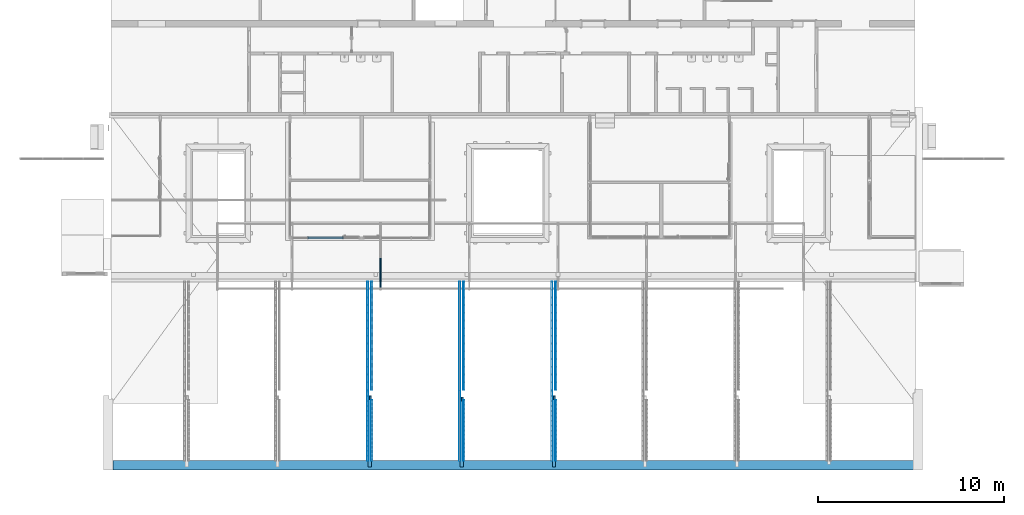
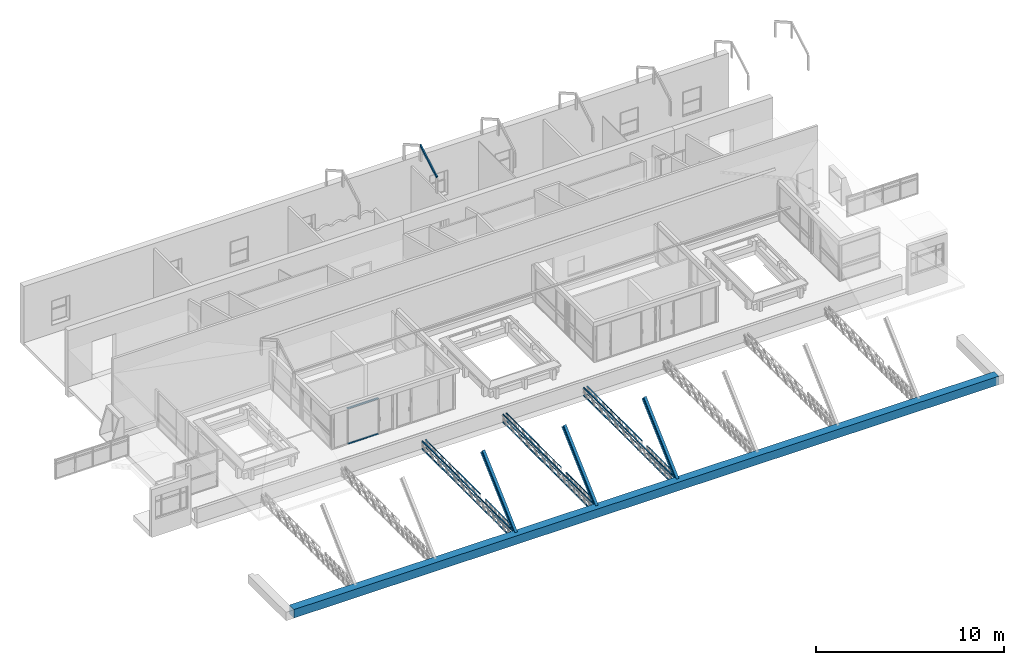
# One storey, part 4 of 153: 29 beams, 2 members, 14 elements without a shape of their own.
"""IFC4 building model written with IfcOpenShell, lengths in metres."""

from ifc_helpers import new_model, entity, si_unit, converted_unit, derived_unit, direction, frame, origin, place, context, subcontext, project, spatial, line, arc, indexed_curve, outline, extrude, source, transform, mapped, material, type_object, type_shapes, element, aggregate, save


model = new_model("IFC4")

# Units and contexts
model_context = context("Model", 3, precision=1e-05, world=origin(), true_north=direction((6.123031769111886e-17, 1.0)))
body_context = subcontext(model_context, "Body", "Model", "MODEL_VIEW")
ifc_project = project(units=[si_unit("LENGTHUNIT", "METRE"), si_unit("AREAUNIT", "SQUARE_METRE"), si_unit("VOLUMEUNIT", "CUBIC_METRE"), converted_unit("PLANEANGLEUNIT", "DEGREE", entity("IfcRatioMeasure", 0.017453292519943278), si_unit("PLANEANGLEUNIT", "RADIAN"), dimensions=[0, 0, 0, 0, 0, 0, 0]), si_unit("MASSUNIT", "GRAM", prefix="KILO"), derived_unit("MASSDENSITYUNIT", [(si_unit("MASSUNIT", "GRAM", prefix="KILO"), 1), (si_unit("LENGTHUNIT", "METRE"), -3)]), derived_unit("MOMENTOFINERTIAUNIT", [(si_unit("LENGTHUNIT", "METRE"), 4)]), si_unit("TIMEUNIT", "SECOND"), si_unit("FREQUENCYUNIT", "HERTZ"), si_unit("THERMODYNAMICTEMPERATUREUNIT", "DEGREE_CELSIUS"), derived_unit("THERMALTRANSMITTANCEUNIT", [(si_unit("MASSUNIT", "GRAM", prefix="KILO"), 1), (si_unit("THERMODYNAMICTEMPERATUREUNIT", "KELVIN"), -1), (si_unit("TIMEUNIT", "SECOND"), -3)]), derived_unit("VOLUMETRICFLOWRATEUNIT", [(si_unit("LENGTHUNIT", "METRE"), 3), (si_unit("TIMEUNIT", "SECOND"), -1)]), derived_unit("MASSFLOWRATEUNIT", [(si_unit("MASSUNIT", "GRAM", prefix="KILO"), 1), (si_unit("TIMEUNIT", "SECOND"), -1)]), derived_unit("ROTATIONALFREQUENCYUNIT", [(si_unit("TIMEUNIT", "SECOND"), -1)]), si_unit("ELECTRICCURRENTUNIT", "AMPERE"), si_unit("ELECTRICVOLTAGEUNIT", "VOLT"), si_unit("POWERUNIT", "WATT"), si_unit("FORCEUNIT", "NEWTON", prefix="KILO"), si_unit("ILLUMINANCEUNIT", "LUX"), si_unit("LUMINOUSFLUXUNIT", "LUMEN"), si_unit("LUMINOUSINTENSITYUNIT", "CANDELA"), derived_unit("USERDEFINED", [(si_unit("MASSUNIT", "GRAM", prefix="KILO"), -1), (si_unit("LENGTHUNIT", "METRE"), -2), (si_unit("TIMEUNIT", "SECOND"), 3), (si_unit("LUMINOUSFLUXUNIT", "LUMEN"), 1)]), derived_unit("SOUNDPOWERUNIT", [(si_unit("MASSUNIT", "GRAM", prefix="KILO"), 1), (si_unit("LENGTHUNIT", "METRE"), 2), (si_unit("TIMEUNIT", "SECOND"), -3)]), derived_unit("SOUNDPRESSUREUNIT", [(si_unit("MASSUNIT", "GRAM", prefix="KILO"), 1), (si_unit("LENGTHUNIT", "METRE"), -1), (si_unit("TIMEUNIT", "SECOND"), -2)]), derived_unit("LINEARVELOCITYUNIT", [(si_unit("LENGTHUNIT", "METRE"), 1), (si_unit("TIMEUNIT", "SECOND"), -1)]), si_unit("PRESSUREUNIT", "PASCAL"), derived_unit("USERDEFINED", [(si_unit("LENGTHUNIT", "METRE"), -2), (si_unit("MASSUNIT", "GRAM", prefix="KILO"), 1), (si_unit("TIMEUNIT", "SECOND"), -2)]), derived_unit("LINEARFORCEUNIT", [(si_unit("MASSUNIT", "GRAM", prefix="KILO"), 1), (si_unit("LENGTHUNIT", "METRE"), 1), (si_unit("TIMEUNIT", "SECOND"), -2), (si_unit("LENGTHUNIT", "METRE"), -1)]), derived_unit("PLANARFORCEUNIT", [(si_unit("MASSUNIT", "GRAM", prefix="KILO"), 1), (si_unit("LENGTHUNIT", "METRE"), 1), (si_unit("TIMEUNIT", "SECOND"), -2), (si_unit("LENGTHUNIT", "METRE"), -2)])], contexts=[model_context])

# Site, building, storey
site_placement = place(None, origin())
site = spatial("IfcSite", under=ifc_project, at=site_placement, Name="Superficie", CompositionType="ELEMENT")
building_placement = place(site_placement, origin())
building = spatial("IfcBuilding", under=site, at=building_placement, CompositionType="ELEMENT")
storey_placement = place(building_placement, frame((0.0, 0.0, 3.5999999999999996)))
storey = spatial("IfcBuildingStorey", under=building, at=storey_placement, Name="Nivel 1", CompositionType="ELEMENT", Elevation=3.5999999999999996)

# Curtain wall, members
curtain_wall_type = type_object("IfcCurtainWallType", Name="Muro cortina:Muro cortina - simple", PredefinedType="NOTDEFINED")
curtain_wall_placement = place(storey_placement, frame((0.0, 0.0, -3.5999999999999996)))
curtain_wall = element("IfcCurtainWall", 1, at=curtain_wall_placement, inside=storey, type_object=curtain_wall_type, Name="Muro cortina:Muro cortina - simple", ObjectType="Muro cortina:Muro cortina - simple", PredefinedType="NOTDEFINED")
ifc_material_1 = material(Name="<Unnamed>")
member_type_1 = type_object("IfcMemberType", Name="Montante rectangular:Montante rectangular - 5 x 10 cm", PredefinedType="MULLION", material=ifc_material_1)
shared_shape_1 = source(origin(), body_context, "Body", "SweptSolid", [
    extrude(outline(indexed_curve([(-0.05, -0.025), (0.05, -0.025), (0.05, 0.025), (-0.05, 0.025), (-0.05, -0.025)], self_intersect=False)), frame((-0.025, 0.0, -1.8899999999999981), z_axis=(0.0, 0.0, 1.0), x_axis=(0.0, -1.0, 0.0)), (0.0, 0.0, 1.0), 1.8899999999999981),
])
type_shapes(member_type_1, [shared_shape_1])
member_1_placement = place(curtain_wall_placement, frame((-10.173200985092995, -0.9636067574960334, 5.949999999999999), z_axis=(1.0, 0.0, 0.0), x_axis=(0.0, 0.0, 1.0)))
member_1 = element("IfcMember", 2, at=member_1_placement, type_object=member_type_1, material=ifc_material_1, Name="Montante rectangular:Montante rectangular - 5 x 10 cm", ObjectType="Montante rectangular:Montante rectangular - 5 x 10 cm", PredefinedType="MULLION", context=body_context, shape_type="MappedRepresentation", body=[
    mapped(shared_shape_1, transform((0.0, 0.0, 0.0), scale=1.0)),
])
member_type_2 = type_object("IfcMemberType", Name="Montante rectangular:Montante rectangular - 5 x 10 cm", PredefinedType="MULLION", material=ifc_material_1)
shared_shape_2 = source(origin(), body_context, "Body", "SweptSolid", [
    extrude(outline(indexed_curve([(-0.05, -0.025), (0.05, -0.025), (0.05, 0.025), (-0.05, 0.025), (-0.05, -0.025)], self_intersect=False)), frame((-0.025, 0.0, -1.839999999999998), z_axis=(0.0, 0.0, 1.0), x_axis=(0.0, -1.0, 0.0)), (0.0, 0.0, 1.0), 1.839999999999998),
])
type_shapes(member_type_2, [shared_shape_2])
member_2_placement = place(curtain_wall_placement, frame((-12.038200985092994, -0.9636067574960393, 3.5999999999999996), z_axis=(-1.0, 0.0, 0.0), x_axis=(0.0, 0.0, -1.0)))
member_2 = element("IfcMember", 3, at=member_2_placement, type_object=member_type_2, material=ifc_material_1, Name="Montante rectangular:Montante rectangular - 5 x 10 cm", ObjectType="Montante rectangular:Montante rectangular - 5 x 10 cm", PredefinedType="MULLION", context=body_context, shape_type="MappedRepresentation", body=[
    mapped(shared_shape_2, transform((0.0, 0.0, 0.0), scale=1.0)),
])
aggregate(curtain_wall, [member_1, member_2])

# Assembly, beams
assembly_1_placement = place(storey_placement, origin())
assembly_1 = element("IfcElementAssembly", 4, at=assembly_1_placement, inside=storey, Name="Viga de celosia 13:Viga de celosia 13", ObjectType="Viga de celosia 13:Viga de celosia 13", AssemblyPlace="NOTDEFINED", PredefinedType="TRUSS")
ifc_material_2 = material(Name="Metal - Calibre delgado", Category="Metal")
beam_type_1 = type_object("IfcBeamType", Name="Calibre delgado-Ángulos:L140 x 40", PredefinedType="BEAM", material=ifc_material_2)
shared_shape_3 = source(origin(), body_context, "Body", "SweptSolid", [
    extrude(outline(indexed_curve([(-0.01766666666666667, -0.032333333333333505), (-0.014666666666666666, -0.032333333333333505), (-0.014666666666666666, 0.014666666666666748), (0.03233333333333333, 0.014666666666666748), (0.03233333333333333, 0.017666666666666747), (-0.01766666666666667, 0.017666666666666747), (-0.01766666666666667, -0.032333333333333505)], self_intersect=False)), frame((-2.899999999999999, -0.017666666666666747, -0.01766666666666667), z_axis=(1.0, 0.0, 0.0), x_axis=(0.0, 0.0, -1.0)), (0.0, 0.0, 1.0), 5.799999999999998),
])
type_shapes(beam_type_1, [shared_shape_3])
beam_1_placement = place(assembly_1_placement, frame((-8.863200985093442, -6.234029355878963, 0.02499999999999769), z_axis=(0.0, 0.0, 1.0), x_axis=(0.0, 1.0, 0.0)))
beam_1 = element("IfcBeam", 5, at=beam_1_placement, type_object=beam_type_1, material=ifc_material_2, Name="Calibre delgado-Ángulos:L140 x 40", ObjectType="Calibre delgado-Ángulos:L140 x 40", PredefinedType="BEAM", context=body_context, shape_type="MappedRepresentation", body=[
    mapped(shared_shape_3, transform((0.0, 0.0, 0.0), scale=1.0)),
])
beam_2_placement = place(assembly_1_placement, frame((-8.863200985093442, -6.234029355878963, 0.5249999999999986), z_axis=(0.0, 0.0, 1.0), x_axis=(0.0, 1.0, 0.0)))
beam_2 = element("IfcBeam", 6, at=beam_2_placement, type_object=beam_type_1, material=ifc_material_2, Name="Calibre delgado-Ángulos:L140 x 40", ObjectType="Calibre delgado-Ángulos:L140 x 40", PredefinedType="BEAM", context=body_context, shape_type="MappedRepresentation", body=[
    mapped(shared_shape_3, transform((0.0, 0.0, 0.0), scale=1.0)),
])
aggregate(assembly_1, [beam_1, beam_2])

assembly_2_placement = place(storey_placement, origin())
assembly_2 = element("IfcElementAssembly", 7, at=assembly_2_placement, inside=storey, Name="Viga de celosia 13:Viga de celosia 13", ObjectType="Viga de celosia 13:Viga de celosia 13", AssemblyPlace="NOTDEFINED", PredefinedType="TRUSS")
beam_3_placement = place(assembly_2_placement, frame((-3.9132009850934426, -6.234029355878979, 0.02499999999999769), z_axis=(0.0, 0.0, 1.0), x_axis=(0.0, 1.0, 0.0)))
beam_3 = element("IfcBeam", 8, at=beam_3_placement, type_object=beam_type_1, material=ifc_material_2, Name="Calibre delgado-Ángulos:L140 x 40", ObjectType="Calibre delgado-Ángulos:L140 x 40", PredefinedType="BEAM", context=body_context, shape_type="MappedRepresentation", body=[
    mapped(shared_shape_3, transform((0.0, 0.0, 0.0), scale=1.0)),
])
beam_4_placement = place(assembly_2_placement, frame((-3.9132009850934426, -6.234029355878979, 0.5249999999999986), z_axis=(0.0, 0.0, 1.0), x_axis=(0.0, 1.0, 0.0)))
beam_4 = element("IfcBeam", 9, at=beam_4_placement, type_object=beam_type_1, material=ifc_material_2, Name="Calibre delgado-Ángulos:L140 x 40", ObjectType="Calibre delgado-Ángulos:L140 x 40", PredefinedType="BEAM", context=body_context, shape_type="MappedRepresentation", body=[
    mapped(shared_shape_3, transform((0.0, 0.0, 0.0), scale=1.0)),
])
aggregate(assembly_2, [beam_3, beam_4])

assembly_3_placement = place(storey_placement, origin())
assembly_3 = element("IfcElementAssembly", 10, at=assembly_3_placement, inside=storey, Name="Viga de celosia 13:Viga de celosia 13", ObjectType="Viga de celosia 13:Viga de celosia 13", AssemblyPlace="NOTDEFINED", PredefinedType="TRUSS")
beam_5_placement = place(assembly_3_placement, frame((1.0367990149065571, -6.234029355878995, 0.02499999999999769), z_axis=(0.0, 0.0, 1.0), x_axis=(0.0, 1.0, 0.0)))
beam_5 = element("IfcBeam", 11, at=beam_5_placement, type_object=beam_type_1, material=ifc_material_2, Name="Calibre delgado-Ángulos:L140 x 40", ObjectType="Calibre delgado-Ángulos:L140 x 40", PredefinedType="BEAM", context=body_context, shape_type="MappedRepresentation", body=[
    mapped(shared_shape_3, transform((0.0, 0.0, 0.0), scale=1.0)),
])
beam_6_placement = place(assembly_3_placement, frame((1.0367990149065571, -6.234029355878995, 0.5249999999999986), z_axis=(0.0, 0.0, 1.0), x_axis=(0.0, 1.0, 0.0)))
beam_6 = element("IfcBeam", 12, at=beam_6_placement, type_object=beam_type_1, material=ifc_material_2, Name="Calibre delgado-Ángulos:L140 x 40", ObjectType="Calibre delgado-Ángulos:L140 x 40", PredefinedType="BEAM", context=body_context, shape_type="MappedRepresentation", body=[
    mapped(shared_shape_3, transform((0.0, 0.0, 0.0), scale=1.0)),
])
aggregate(assembly_3, [beam_5, beam_6])

assembly_4_placement = place(storey_placement, origin())
assembly_4 = element("IfcElementAssembly", 13, at=assembly_4_placement, inside=storey, Name="Viga de celosia 13:Viga de celosia 13", ObjectType="Viga de celosia 13:Viga de celosia 13", AssemblyPlace="NOTDEFINED", PredefinedType="TRUSS")
beam_type_2 = type_object("IfcBeamType", Name="Calibre delgado-Ángulos:L140 x 40", PredefinedType="BEAM", material=ifc_material_2)
shared_shape_4 = source(origin(), body_context, "Body", "SweptSolid", [
    extrude(outline(indexed_curve([(-0.017666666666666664, -0.01766666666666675), (0.03233333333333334, -0.01766666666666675), (0.03233333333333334, -0.01466666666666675), (-0.014666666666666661, -0.014666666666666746), (-0.014666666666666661, 0.0323333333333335), (-0.017666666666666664, 0.0323333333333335), (-0.017666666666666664, -0.01766666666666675)], self_intersect=False)), frame((-2.899999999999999, 0.01766666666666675, -0.017666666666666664), z_axis=(1.0, 0.0, 0.0), x_axis=(0.0, 0.0, -1.0)), (0.0, 0.0, 1.0), 5.799999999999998),
])
type_shapes(beam_type_2, [shared_shape_4])
beam_7_placement = place(assembly_4_placement, frame((-8.613200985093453, -6.234029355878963, 0.02499999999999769), z_axis=(0.0, 0.0, 1.0), x_axis=(0.0, 1.0, 0.0)))
beam_7 = element("IfcBeam", 14, at=beam_7_placement, type_object=beam_type_2, material=ifc_material_2, Name="Calibre delgado-Ángulos:L140 x 40", ObjectType="Calibre delgado-Ángulos:L140 x 40", PredefinedType="BEAM", context=body_context, shape_type="MappedRepresentation", body=[
    mapped(shared_shape_4, transform((0.0, 0.0, 0.0), scale=1.0)),
])
beam_8_placement = place(assembly_4_placement, frame((-8.613200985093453, -6.234029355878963, 0.5249999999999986), z_axis=(0.0, 0.0, 1.0), x_axis=(0.0, 1.0, 0.0)))
beam_8 = element("IfcBeam", 15, at=beam_8_placement, type_object=beam_type_2, material=ifc_material_2, Name="Calibre delgado-Ángulos:L140 x 40", ObjectType="Calibre delgado-Ángulos:L140 x 40", PredefinedType="BEAM", context=body_context, shape_type="MappedRepresentation", body=[
    mapped(shared_shape_4, transform((0.0, 0.0, 0.0), scale=1.0)),
])
aggregate(assembly_4, [beam_7, beam_8])

assembly_5_placement = place(storey_placement, origin())
assembly_5 = element("IfcElementAssembly", 16, at=assembly_5_placement, inside=storey, Name="Viga de celosia 13:Viga de celosia 13", ObjectType="Viga de celosia 13:Viga de celosia 13", AssemblyPlace="NOTDEFINED", PredefinedType="TRUSS")
beam_9_placement = place(assembly_5_placement, frame((-3.663200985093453, -6.234029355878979, 0.02499999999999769), z_axis=(0.0, 0.0, 1.0), x_axis=(0.0, 1.0, 0.0)))
beam_9 = element("IfcBeam", 17, at=beam_9_placement, type_object=beam_type_2, material=ifc_material_2, Name="Calibre delgado-Ángulos:L140 x 40", ObjectType="Calibre delgado-Ángulos:L140 x 40", PredefinedType="BEAM", context=body_context, shape_type="MappedRepresentation", body=[
    mapped(shared_shape_4, transform((0.0, 0.0, 0.0), scale=1.0)),
])
beam_10_placement = place(assembly_5_placement, frame((-3.663200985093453, -6.234029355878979, 0.5249999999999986), z_axis=(0.0, 0.0, 1.0), x_axis=(0.0, 1.0, 0.0)))
beam_10 = element("IfcBeam", 18, at=beam_10_placement, type_object=beam_type_2, material=ifc_material_2, Name="Calibre delgado-Ángulos:L140 x 40", ObjectType="Calibre delgado-Ángulos:L140 x 40", PredefinedType="BEAM", context=body_context, shape_type="MappedRepresentation", body=[
    mapped(shared_shape_4, transform((0.0, 0.0, 0.0), scale=1.0)),
])
aggregate(assembly_5, [beam_9, beam_10])

assembly_6_placement = place(storey_placement, origin())
assembly_6 = element("IfcElementAssembly", 19, at=assembly_6_placement, inside=storey, Name="Viga de celosia 13:Viga de celosia 13", ObjectType="Viga de celosia 13:Viga de celosia 13", AssemblyPlace="NOTDEFINED", PredefinedType="TRUSS")
beam_11_placement = place(assembly_6_placement, frame((1.286799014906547, -6.234029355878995, 0.02499999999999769), z_axis=(0.0, 0.0, 1.0), x_axis=(0.0, 1.0, 0.0)))
beam_11 = element("IfcBeam", 20, at=beam_11_placement, type_object=beam_type_2, material=ifc_material_2, Name="Calibre delgado-Ángulos:L140 x 40", ObjectType="Calibre delgado-Ángulos:L140 x 40", PredefinedType="BEAM", context=body_context, shape_type="MappedRepresentation", body=[
    mapped(shared_shape_4, transform((0.0, 0.0, 0.0), scale=1.0)),
])
beam_12_placement = place(assembly_6_placement, frame((1.286799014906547, -6.234029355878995, 0.5249999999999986), z_axis=(0.0, 0.0, 1.0), x_axis=(0.0, 1.0, 0.0)))
beam_12 = element("IfcBeam", 21, at=beam_12_placement, type_object=beam_type_2, material=ifc_material_2, Name="Calibre delgado-Ángulos:L140 x 40", ObjectType="Calibre delgado-Ángulos:L140 x 40", PredefinedType="BEAM", context=body_context, shape_type="MappedRepresentation", body=[
    mapped(shared_shape_4, transform((0.0, 0.0, 0.0), scale=1.0)),
])
aggregate(assembly_6, [beam_11, beam_12])

# Assembly, beam
assembly_7_placement = place(storey_placement, origin())
assembly_7 = element("IfcElementAssembly", 22, at=assembly_7_placement, inside=storey, Name="Viga de celosia 13:Viga de celosia 13", ObjectType="Viga de celosia 13:Viga de celosia 13", AssemblyPlace="NOTDEFINED", PredefinedType="TRUSS")
beam_type_3 = type_object("IfcBeamType", Name="Calibre delgado-Ángulos:L140 x 40", PredefinedType="BEAM", material=ifc_material_2)
shared_shape_5 = source(origin(), body_context, "Body", "SweptSolid", [
    extrude(outline(indexed_curve([(-0.01766666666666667, -0.032333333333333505), (-0.014666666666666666, -0.032333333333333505), (-0.014666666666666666, 0.014666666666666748), (0.03233333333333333, 0.014666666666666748), (0.03233333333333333, 0.017666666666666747), (-0.01766666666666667, 0.017666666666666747), (-0.01766666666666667, -0.032333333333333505)], self_intersect=False)), frame((-1.872500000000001, -0.017666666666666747, -0.01766666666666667), z_axis=(1.0, 0.0, 0.0), x_axis=(0.0, 0.0, -1.0)), (0.0, 0.0, 1.0), 3.745000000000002),
])
type_shapes(beam_type_3, [shared_shape_5])
beam_13_placement = place(assembly_7_placement, frame((-8.86320098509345, -11.071002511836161, 0.02499999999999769), z_axis=(0.0, 0.0, 1.0), x_axis=(0.0, 1.0, 0.0)))
beam_13 = element("IfcBeam", 23, at=beam_13_placement, type_object=beam_type_3, material=ifc_material_2, Name="Calibre delgado-Ángulos:L140 x 40", ObjectType="Calibre delgado-Ángulos:L140 x 40", PredefinedType="BEAM", context=body_context, shape_type="MappedRepresentation", body=[
    mapped(shared_shape_5, transform((0.0, 0.0, 0.0), scale=1.0)),
])

assembly_8_placement = place(storey_placement, origin())
assembly_8 = element("IfcElementAssembly", 24, at=assembly_8_placement, inside=storey, Name="Viga de celosia 13:Viga de celosia 13", ObjectType="Viga de celosia 13:Viga de celosia 13", AssemblyPlace="NOTDEFINED", PredefinedType="TRUSS")
beam_14_placement = place(assembly_8_placement, frame((-3.9132009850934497, -11.071002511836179, 0.02499999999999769), z_axis=(0.0, 0.0, 1.0), x_axis=(0.0, 1.0, 0.0)))
beam_14 = element("IfcBeam", 25, at=beam_14_placement, type_object=beam_type_3, material=ifc_material_2, Name="Calibre delgado-Ángulos:L140 x 40", ObjectType="Calibre delgado-Ángulos:L140 x 40", PredefinedType="BEAM", context=body_context, shape_type="MappedRepresentation", body=[
    mapped(shared_shape_5, transform((0.0, 0.0, 0.0), scale=1.0)),
])

assembly_9_placement = place(storey_placement, origin())
assembly_9 = element("IfcElementAssembly", 26, at=assembly_9_placement, inside=storey, Name="Viga de celosia 13:Viga de celosia 13", ObjectType="Viga de celosia 13:Viga de celosia 13", AssemblyPlace="NOTDEFINED", PredefinedType="TRUSS")
beam_15_placement = place(assembly_9_placement, frame((1.0367990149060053, -11.071002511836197, 0.02499999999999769), z_axis=(0.0, 0.0, 1.0), x_axis=(0.0, 1.0, 0.0)))
beam_15 = element("IfcBeam", 27, at=beam_15_placement, type_object=beam_type_3, material=ifc_material_2, Name="Calibre delgado-Ángulos:L140 x 40", ObjectType="Calibre delgado-Ángulos:L140 x 40", PredefinedType="BEAM", context=body_context, shape_type="MappedRepresentation", body=[
    mapped(shared_shape_5, transform((0.0, 0.0, 0.0), scale=1.0)),
])

# Beam
beam_type_4 = type_object("IfcBeamType", Name="Calibre delgado-Ángulos:L140 x 40", PredefinedType="BEAM", material=ifc_material_2)
shared_shape_6 = source(origin(), body_context, "Body", "SweptSolid", [
    extrude(outline(indexed_curve([(-0.01766666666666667, -0.032333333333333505), (-0.014666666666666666, -0.032333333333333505), (-0.014666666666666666, 0.014666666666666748), (0.03233333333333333, 0.014666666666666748), (0.03233333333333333, 0.017666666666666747), (-0.01766666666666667, 0.017666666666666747), (-0.01766666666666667, -0.032333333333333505)], self_intersect=False)), frame((-1.8594999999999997, -0.017666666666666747, -0.01766666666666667), z_axis=(1.0, 0.0, 0.0), x_axis=(0.0, 0.0, -1.0)), (0.0, 0.0, 1.0), 3.7320000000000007),
])
type_shapes(beam_type_4, [shared_shape_6])
beam_16_placement = place(assembly_7_placement, frame((-8.86320098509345, -11.071002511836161, 0.5249999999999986), z_axis=(0.0, 0.0, 1.0), x_axis=(0.0, 1.0, 0.0)))
beam_16 = element("IfcBeam", 28, at=beam_16_placement, type_object=beam_type_4, material=ifc_material_2, Name="Calibre delgado-Ángulos:L140 x 40", ObjectType="Calibre delgado-Ángulos:L140 x 40", PredefinedType="BEAM", context=body_context, shape_type="MappedRepresentation", body=[
    mapped(shared_shape_6, transform((0.0, 0.0, 0.0), scale=1.0)),
])

aggregate(assembly_7, [beam_13, beam_16])

beam_17_placement = place(assembly_8_placement, frame((-3.9132009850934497, -11.071002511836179, 0.5249999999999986), z_axis=(0.0, 0.0, 1.0), x_axis=(0.0, 1.0, 0.0)))
beam_17 = element("IfcBeam", 29, at=beam_17_placement, type_object=beam_type_4, material=ifc_material_2, Name="Calibre delgado-Ángulos:L140 x 40", ObjectType="Calibre delgado-Ángulos:L140 x 40", PredefinedType="BEAM", context=body_context, shape_type="MappedRepresentation", body=[
    mapped(shared_shape_6, transform((0.0, 0.0, 0.0), scale=1.0)),
])

aggregate(assembly_8, [beam_14, beam_17])

beam_18_placement = place(assembly_9_placement, frame((1.0367990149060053, -11.071002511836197, 0.5249999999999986), z_axis=(0.0, 0.0, 1.0), x_axis=(0.0, 1.0, 0.0)))
beam_18 = element("IfcBeam", 30, at=beam_18_placement, type_object=beam_type_4, material=ifc_material_2, Name="Calibre delgado-Ángulos:L140 x 40", ObjectType="Calibre delgado-Ángulos:L140 x 40", PredefinedType="BEAM", context=body_context, shape_type="MappedRepresentation", body=[
    mapped(shared_shape_6, transform((0.0, 0.0, 0.0), scale=1.0)),
])

aggregate(assembly_9, [beam_15, beam_18])

# Assembly, beam
assembly_10_placement = place(storey_placement, origin())
assembly_10 = element("IfcElementAssembly", 31, at=assembly_10_placement, inside=storey, Name="Viga de celosia 13:Viga de celosia 13", ObjectType="Viga de celosia 13:Viga de celosia 13", AssemblyPlace="NOTDEFINED", PredefinedType="TRUSS")
beam_type_5 = type_object("IfcBeamType", Name="Calibre delgado-Ángulos:L140 x 40", PredefinedType="BEAM", material=ifc_material_2)
shared_shape_7 = source(origin(), body_context, "Body", "SweptSolid", [
    extrude(outline(indexed_curve([(-0.017666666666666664, -0.01766666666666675), (0.03233333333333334, -0.01766666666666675), (0.03233333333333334, -0.01466666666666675), (-0.014666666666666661, -0.014666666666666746), (-0.014666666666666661, 0.0323333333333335), (-0.017666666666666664, 0.0323333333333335), (-0.017666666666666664, -0.01766666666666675)], self_intersect=False)), frame((-1.6224999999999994, 0.01766666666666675, -0.017666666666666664), z_axis=(1.0, 0.0, 0.0), x_axis=(0.0, 0.0, -1.0)), (0.0, 0.0, 1.0), 3.2449999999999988),
])
type_shapes(beam_type_5, [shared_shape_7])
beam_19_placement = place(assembly_10_placement, frame((-8.613200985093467, -11.321002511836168, 0.02499999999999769), z_axis=(0.0, 0.0, 1.0), x_axis=(0.0, 1.0, 0.0)))
beam_19 = element("IfcBeam", 32, at=beam_19_placement, type_object=beam_type_5, material=ifc_material_2, Name="Calibre delgado-Ángulos:L140 x 40", ObjectType="Calibre delgado-Ángulos:L140 x 40", PredefinedType="BEAM", context=body_context, shape_type="MappedRepresentation", body=[
    mapped(shared_shape_7, transform((0.0, 0.0, 0.0), scale=1.0)),
])

assembly_11_placement = place(storey_placement, origin())
assembly_11 = element("IfcElementAssembly", 33, at=assembly_11_placement, inside=storey, Name="Viga de celosia 13:Viga de celosia 13", ObjectType="Viga de celosia 13:Viga de celosia 13", AssemblyPlace="NOTDEFINED", PredefinedType="TRUSS")
beam_20_placement = place(assembly_11_placement, frame((-3.6632009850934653, -11.321002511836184, 0.02499999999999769), z_axis=(0.0, 0.0, 1.0), x_axis=(0.0, 1.0, 0.0)))
beam_20 = element("IfcBeam", 34, at=beam_20_placement, type_object=beam_type_5, material=ifc_material_2, Name="Calibre delgado-Ángulos:L140 x 40", ObjectType="Calibre delgado-Ángulos:L140 x 40", PredefinedType="BEAM", context=body_context, shape_type="MappedRepresentation", body=[
    mapped(shared_shape_7, transform((0.0, 0.0, 0.0), scale=1.0)),
])

assembly_12_placement = place(storey_placement, origin())
assembly_12 = element("IfcElementAssembly", 35, at=assembly_12_placement, inside=storey, Name="Viga de celosia 13:Viga de celosia 13", ObjectType="Viga de celosia 13:Viga de celosia 13", AssemblyPlace="NOTDEFINED", PredefinedType="TRUSS")
beam_21_placement = place(assembly_12_placement, frame((1.2867990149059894, -11.321002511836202, 0.02499999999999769), z_axis=(0.0, 0.0, 1.0), x_axis=(0.0, 1.0, 0.0)))
beam_21 = element("IfcBeam", 36, at=beam_21_placement, type_object=beam_type_5, material=ifc_material_2, Name="Calibre delgado-Ángulos:L140 x 40", ObjectType="Calibre delgado-Ángulos:L140 x 40", PredefinedType="BEAM", context=body_context, shape_type="MappedRepresentation", body=[
    mapped(shared_shape_7, transform((0.0, 0.0, 0.0), scale=1.0)),
])

# Beam
beam_type_6 = type_object("IfcBeamType", Name="Calibre delgado-Ángulos:L140 x 40", PredefinedType="BEAM", material=ifc_material_2)
shared_shape_8 = source(origin(), body_context, "Body", "SweptSolid", [
    extrude(outline(indexed_curve([(-0.017666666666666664, -0.01766666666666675), (0.03233333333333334, -0.01766666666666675), (0.03233333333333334, -0.01466666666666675), (-0.014666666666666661, -0.014666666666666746), (-0.014666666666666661, 0.0323333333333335), (-0.017666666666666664, 0.0323333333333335), (-0.017666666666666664, -0.01766666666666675)], self_intersect=False)), frame((-1.6095000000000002, 0.01766666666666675, -0.017666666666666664), z_axis=(1.0, 0.0, 0.0), x_axis=(0.0, 0.0, -1.0)), (0.0, 0.0, 1.0), 3.2319999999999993),
])
type_shapes(beam_type_6, [shared_shape_8])
beam_22_placement = place(assembly_10_placement, frame((-8.613200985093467, -11.321002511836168, 0.5249999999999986), z_axis=(0.0, 0.0, 1.0), x_axis=(0.0, 1.0, 0.0)))
beam_22 = element("IfcBeam", 37, at=beam_22_placement, type_object=beam_type_6, material=ifc_material_2, Name="Calibre delgado-Ángulos:L140 x 40", ObjectType="Calibre delgado-Ángulos:L140 x 40", PredefinedType="BEAM", context=body_context, shape_type="MappedRepresentation", body=[
    mapped(shared_shape_8, transform((0.0, 0.0, 0.0), scale=1.0)),
])

aggregate(assembly_10, [beam_19, beam_22])

beam_23_placement = place(assembly_11_placement, frame((-3.6632009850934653, -11.321002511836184, 0.5249999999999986), z_axis=(0.0, 0.0, 1.0), x_axis=(0.0, 1.0, 0.0)))
beam_23 = element("IfcBeam", 38, at=beam_23_placement, type_object=beam_type_6, material=ifc_material_2, Name="Calibre delgado-Ángulos:L140 x 40", ObjectType="Calibre delgado-Ángulos:L140 x 40", PredefinedType="BEAM", context=body_context, shape_type="MappedRepresentation", body=[
    mapped(shared_shape_8, transform((0.0, 0.0, 0.0), scale=1.0)),
])

aggregate(assembly_11, [beam_20, beam_23])

beam_24_placement = place(assembly_12_placement, frame((1.2867990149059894, -11.321002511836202, 0.5249999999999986), z_axis=(0.0, 0.0, 1.0), x_axis=(0.0, 1.0, 0.0)))
beam_24 = element("IfcBeam", 39, at=beam_24_placement, type_object=beam_type_6, material=ifc_material_2, Name="Calibre delgado-Ángulos:L140 x 40", ObjectType="Calibre delgado-Ángulos:L140 x 40", PredefinedType="BEAM", context=body_context, shape_type="MappedRepresentation", body=[
    mapped(shared_shape_8, transform((0.0, 0.0, 0.0), scale=1.0)),
])

aggregate(assembly_12, [beam_21, beam_24])

# Beams
beam_type_7 = type_object("IfcBeamType", Name="Hormigón-Viga rectangular:500 x 550mm 2", PredefinedType="BEAM", material=ifc_material_1)
shared_shape_9 = source(origin(), body_context, "Body", "SweptSolid", [
    extrude(outline(indexed_curve([(-0.27500000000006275, -0.24999999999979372), (0.2749999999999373, -0.25000000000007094), (0.27500000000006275, 0.24999999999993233), (-0.27499999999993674, 0.25000000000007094), (-0.27500000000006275, -0.24999999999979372)], self_intersect=False)), frame((-22.543200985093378, -13.193502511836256, 3.824999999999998), z_axis=(1.0, 0.0, 0.0), x_axis=(0.0, 0.0, -1.0)), (0.0, 0.0, 1.0), 43.222400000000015),
])
type_shapes(beam_type_7, [shared_shape_9])
beam_25_placement = place(storey_placement, frame((0.0, 0.0, -3.5999999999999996)))
element("IfcBeam", 40, at=beam_25_placement, inside=storey, type_object=beam_type_7, material=ifc_material_1, Name="Hormigón-Viga rectangular:500 x 550mm 2", ObjectType="Hormigón-Viga rectangular:500 x 550mm 2", PredefinedType="BEAM", context=body_context, shape_type="MappedRepresentation", body=[
    mapped(shared_shape_9, transform((0.0, 0.0, 0.0), scale=1.0)),
])
ifc_material_3 = material(Name="Metal - Acero - 345 MPa", Category="Metal")
beam_type_8 = type_object("IfcBeamType", Name="UB-Perfil universal:305x165x40UB", PredefinedType="BEAM", material=ifc_material_3)
shared_shape_10 = source(origin(), body_context, "Body", "SweptSolid", [
    extrude(outline(indexed_curve([(-0.15169999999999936, -0.08250000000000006), (-0.14150000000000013, -0.08250000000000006), (-0.14150000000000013, -0.011899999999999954), (-0.1388932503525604, -0.005606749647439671), (-0.1326000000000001, -0.0029999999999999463), (0.13259999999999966, -0.0029999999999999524), (0.13889325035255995, -0.00560674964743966), (0.1414999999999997, -0.01189999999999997), (0.1414999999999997, -0.08250000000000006), (0.15170000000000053, -0.08250000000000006), (0.15170000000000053, 0.08250000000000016), (0.1414999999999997, 0.08250000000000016), (0.1414999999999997, 0.011900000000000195), (0.13889325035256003, 0.0056067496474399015), (0.13259999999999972, 0.003000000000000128), (-0.1326, 0.0030000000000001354), (-0.1388932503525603, 0.0056067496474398), (-0.14150000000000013, 0.011900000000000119), (-0.14150000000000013, 0.0824999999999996), (-0.15169999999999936, 0.0824999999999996)], segments=[line(1, 2, 3), arc(3, 4, 5), line(5, 6), arc(6, 7, 8), line(8, 9, 10, 11, 12, 13), arc(13, 14, 15), line(15, 16), arc(16, 17, 18), line(18, 19, 20, 1)], self_intersect=False)), frame((-2.7259999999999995, 0.0, 0.0), z_axis=(1.0, 0.0, 0.0), x_axis=(0.0, 0.0, -1.0)), (0.0, 0.0, 1.0), 4.936999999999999),
])
type_shapes(beam_type_8, [shared_shape_10])
for number, where, z_axis, x_axis, name in (
    (41, (1.1617990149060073, -11.555696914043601, 1.7559320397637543), (0.0, -0.6782801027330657, 0.734803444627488), (0.0, -0.734803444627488, -0.6782801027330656), "UB-Perfil universal:305x165x40UB"),
    (42, (-8.738200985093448, -11.555696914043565, 1.7559320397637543), (0.0, -0.6782801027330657, 0.734803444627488), (0.0, -0.734803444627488, -0.6782801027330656), "UB-Perfil universal:305x165x40UB"),
):
    element("IfcBeam", number, at=place(storey_placement, frame(where, z_axis=z_axis, x_axis=x_axis)), inside=storey, type_object=beam_type_8, material=ifc_material_3, Name=name, ObjectType="UB-Perfil universal:305x165x40UB", PredefinedType="BEAM", context=body_context, shape_type="MappedRepresentation", body=[
        mapped(shared_shape_10, transform((0.0, 0.0, 0.0), scale=1.0)),
    ])
beam_type_9 = type_object("IfcBeamType", Name="UB-Perfil universal:305x165x40UB", PredefinedType="BEAM", material=ifc_material_3)
shared_shape_11 = source(origin(), body_context, "Body", "SweptSolid", [
    extrude(outline(indexed_curve([(-0.15169999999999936, -0.08250000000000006), (-0.14150000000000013, -0.08250000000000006), (-0.1415000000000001, -0.011899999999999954), (-0.13889325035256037, -0.005606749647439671), (-0.13260000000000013, -0.0029999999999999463), (0.1325999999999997, -0.0029999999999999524), (0.13889325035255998, -0.00560674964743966), (0.14149999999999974, -0.01189999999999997), (0.14149999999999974, -0.08250000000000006), (0.15170000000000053, -0.08250000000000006), (0.15170000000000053, 0.08250000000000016), (0.14149999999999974, 0.08250000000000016), (0.14149999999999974, 0.011900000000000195), (0.13889325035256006, 0.0056067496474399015), (0.13259999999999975, 0.003000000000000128), (-0.1326, 0.0030000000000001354), (-0.1388932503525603, 0.0056067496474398), (-0.14150000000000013, 0.011900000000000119), (-0.14150000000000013, 0.0824999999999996), (-0.15169999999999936, 0.0824999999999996)], segments=[line(1, 2, 3), arc(3, 4, 5), line(5, 6), arc(6, 7, 8), line(8, 9, 10, 11, 12, 13), arc(13, 14, 15), line(15, 16), arc(16, 17, 18), line(18, 19, 20, 1)], self_intersect=False)), frame((-2.6346431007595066, 0.0, 0.0), z_axis=(1.0, 0.0, 0.0), x_axis=(0.0, 0.0, -1.0)), (0.0, 0.0, 1.0), 4.845643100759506),
])
type_shapes(beam_type_9, [shared_shape_11])
beam_26_placement = place(storey_placement, frame((-3.788200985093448, -11.555696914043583, 1.7559320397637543), z_axis=(0.0, -0.6782801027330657, 0.734803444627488), x_axis=(0.0, -0.734803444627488, -0.6782801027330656)))
element("IfcBeam", 43, at=beam_26_placement, inside=storey, type_object=beam_type_9, material=ifc_material_3, Name="UB-Perfil universal:305x165x40UB", ObjectType="UB-Perfil universal:305x165x40UB", PredefinedType="BEAM", context=body_context, shape_type="MappedRepresentation", body=[
    mapped(shared_shape_11, transform((0.0, 0.0, 0.0), scale=1.0)),
])

# Assembly, beam
assembly_13_placement = place(storey_placement, origin())
assembly_13 = element("IfcElementAssembly", 44, at=assembly_13_placement, inside=storey, Name="Cercha superior:Cercha superior", ObjectType="Cercha superior:Cercha superior", AssemblyPlace="NOTDEFINED", PredefinedType="TRUSS")
ifc_material_4 = material(Name="Madera - Madera de construcción", Category="Madera")
beam_type_10 = type_object("IfcBeamType", Name="Glulam-Pino del sur:76X140", PredefinedType="BEAM", material=ifc_material_4)
shared_shape_12 = source(origin(), body_context, "Body", "SweptSolid", [
    extrude(outline(indexed_curve([(-1.0091695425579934, -0.0699999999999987), (0.96916967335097, -0.07000000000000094), (1.0491694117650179, 0.06999999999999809), (-1.0091695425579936, 0.07000000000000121), (-1.0091695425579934, -0.0699999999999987)], self_intersect=False)), frame((-8.196073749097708, -2.8335310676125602, 12.128201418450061), z_axis=(1.0, 0.0, 0.0), x_axis=(0.0, 0.8668983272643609, 0.49848499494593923)), (0.0, 0.0, 1.0), 0.07600000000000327),
])
type_shapes(beam_type_10, [shared_shape_12])
beam_27_placement = place(building_placement, frame((0.0, 0.0, 9.562421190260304)))
beam_27 = element("IfcBeam", 45, at=beam_27_placement, type_object=beam_type_10, material=ifc_material_4, Name="Glulam-Pino del sur:76X140", ObjectType="Glulam-Pino del sur:76X140", PredefinedType="BEAM", context=body_context, shape_type="MappedRepresentation", body=[
    mapped(shared_shape_12, transform((0.0, 0.0, 0.0), scale=1.0)),
])
aggregate(assembly_13, [beam_27])

save(model, "model.ifc")
